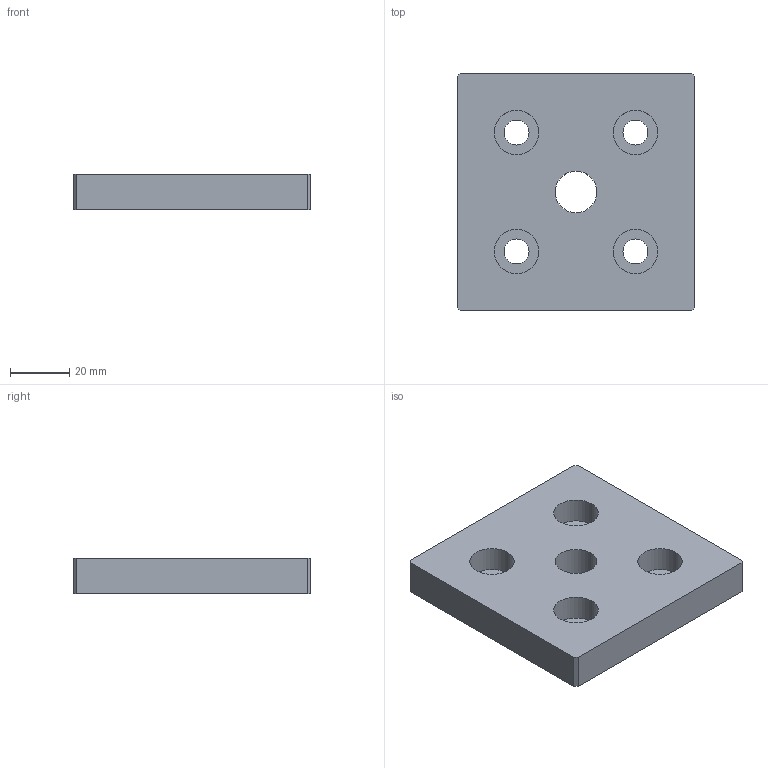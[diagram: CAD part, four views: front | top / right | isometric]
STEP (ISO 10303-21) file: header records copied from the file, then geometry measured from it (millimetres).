
FILE_DESCRIPTION (( 'STEP AP203' ), '1' );
FILE_NAME ('PF8080.STEP', '2024-02-19T06:36:50', ( '' ), ( '' ), 'SwSTEP 2.0', 'SolidWorks 2022', '' );
FILE_SCHEMA (( 'CONFIG_CONTROL_DESIGN' ));
Length unit declared in the file: millimetre
Products named in the file (1): PF8080
Bounding box: 80 x 80 x 12 mm (x, y, z)
Volume: 68096.1 mm3; surface area: 18364.4 mm2
Topology: 1 solids, 1 shells, 32 faces, 78 edges, 52 vertices
Faces by surface type: cylinder 18, plane 14
Entity records: 1055 total; most frequent: DIRECTION 180, CARTESIAN_POINT 163, ORIENTED_EDGE 156, EDGE_CURVE 78, AXIS2_PLACEMENT_3D 69, VERTEX_POINT 52, EDGE_LOOP 46, LINE 42
